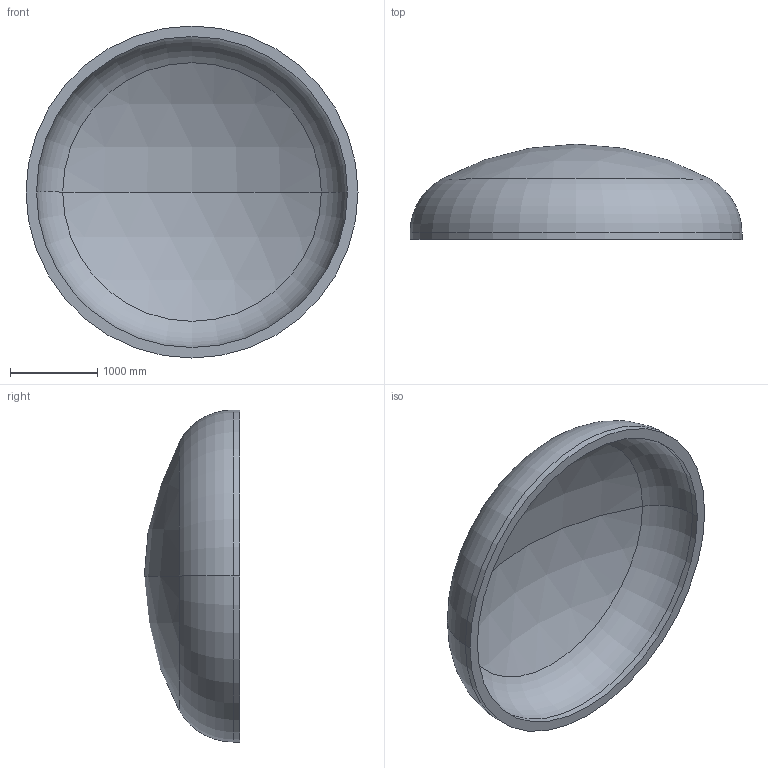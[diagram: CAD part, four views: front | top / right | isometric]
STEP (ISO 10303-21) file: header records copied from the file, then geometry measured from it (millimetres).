
FILE_DESCRIPTION (( 'STEP AP203' ), '1' );
FILE_NAME ('DIN 28013 Korbbogenform_-_Boden DIN 28013 - 3800 x 75 - I - s=120.step', '2016-07-01T21:55:23', ( '' ), ( '' ), 'SwSTEP 2.0', 'SolidWorks 2013', '' );
FILE_SCHEMA (( 'CONFIG_CONTROL_DESIGN' ));
Length unit declared in the file: millimetre
Products named in the file (1): DIN 28013 Korbbogenform_-_Boden DIN 28013 - 3800 x 75 - I - s=120
Bounding box: 3800 x 1090.47 x 3800 mm (x, y, z)
Volume: 1912722324.5 mm3; surface area: 33296181.3 mm2
Topology: 1 solids, 1 shells, 13 faces, 24 edges, 14 vertices
Faces by surface type: torus 4, cylinder 4, sphere 4, plane 1
Entity records: 407 total; most frequent: DIRECTION 72, CARTESIAN_POINT 52, ORIENTED_EDGE 48, AXIS2_PLACEMENT_3D 34, EDGE_CURVE 24, CIRCLE 20, EDGE_LOOP 14, VERTEX_POINT 14
